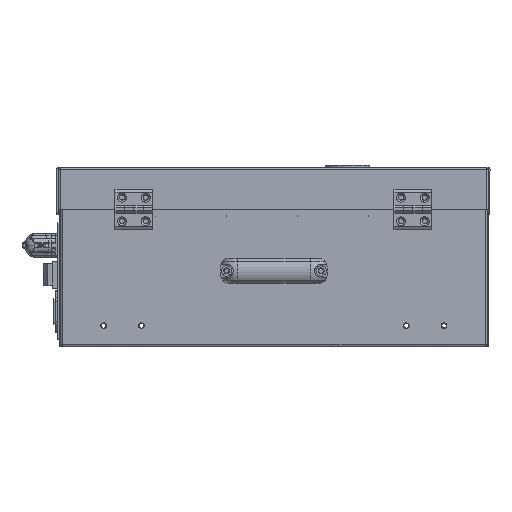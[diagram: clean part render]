
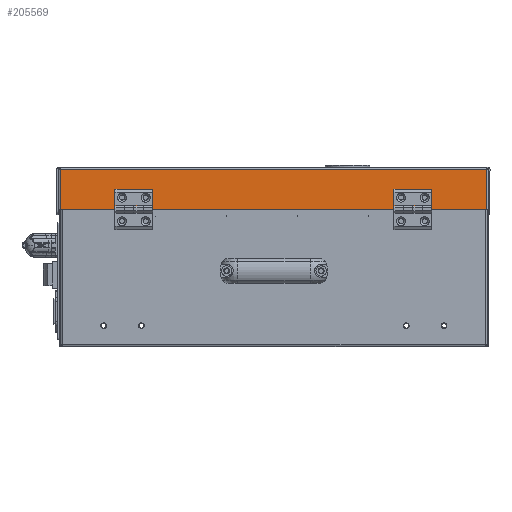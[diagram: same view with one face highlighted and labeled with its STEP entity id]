
A CAD part, front view. The second image highlights one B-rep face of the part: STEP entity #205569.
In plain terms, the highlighted planar face has unit normal (0, -1, 0) as drawn and (0, 1, 0) by its records, which use the part's own axes.
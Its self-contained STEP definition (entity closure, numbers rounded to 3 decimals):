
#1402 = FACE_BOUND ( 'NONE', #96316, .T. ) ;
#2380 = AXIS2_PLACEMENT_3D ( 'NONE', #160794, #110150, #207318 ) ;
#3241 = VERTEX_POINT ( 'NONE', #108169 ) ;
#3498 = CARTESIAN_POINT ( 'NONE',  ( 135., 85., 30.5 ) ) ;
#4326 = VERTEX_POINT ( 'NONE', #154454 ) ;
#11645 = DIRECTION ( 'NONE',  ( 0., 1., 0. ) ) ;
#12041 = ORIENTED_EDGE ( 'NONE', *, *, #181029, .F. ) ;
#13284 = DIRECTION ( 'NONE',  ( 0., 1., 0. ) ) ;
#14088 = FACE_BOUND ( 'NONE', #180103, .T. ) ;
#22217 = VERTEX_POINT ( 'NONE', #93759 ) ;
#26010 = DIRECTION ( 'NONE',  ( 0., 0., 1. ) ) ;
#28496 = DIRECTION ( 'NONE',  ( 0., 0., 1. ) ) ;
#29756 = DIRECTION ( 'NONE',  ( 0., 1., 0. ) ) ;
#30173 = AXIS2_PLACEMENT_3D ( 'NONE', #32202, #133297, #180763 ) ;
#32202 = CARTESIAN_POINT ( 'NONE',  ( 135., 85., 30.5 ) ) ;
#37663 = CIRCLE ( 'NONE', #118793, 2.65 ) ;
#44179 = AXIS2_PLACEMENT_3D ( 'NONE', #208347, #169663, #26010 ) ;
#47878 = VERTEX_POINT ( 'NONE', #159566 ) ;
#49643 = EDGE_CURVE ( 'NONE', #47878, #104927, #67621, .T. ) ;
#51980 = DIRECTION ( 'NONE',  ( 0., 0., 1. ) ) ;
#52454 = DIRECTION ( 'NONE',  ( 0., 0., 1. ) ) ;
#52818 = ORIENTED_EDGE ( 'NONE', *, *, #122464, .F. ) ;
#55891 = ORIENTED_EDGE ( 'NONE', *, *, #207957, .F. ) ;
#63579 = ORIENTED_EDGE ( 'NONE', *, *, #145010, .F. ) ;
#64511 = VERTEX_POINT ( 'NONE', #75135 ) ;
#65324 = VERTEX_POINT ( 'NONE', #157490 ) ;
#67621 = LINE ( 'NONE', #84510, #86638 ) ;
#69652 = DIRECTION ( 'NONE',  ( 0., 0., -1. ) ) ;
#70183 = DIRECTION ( 'NONE',  ( 0., 1., 0. ) ) ;
#71654 = CARTESIAN_POINT ( 'NONE',  ( 160., 85., 33.15 ) ) ;
#72544 = VERTEX_POINT ( 'NONE', #144346 ) ;
#72786 = CARTESIAN_POINT ( 'NONE',  ( -225.4, 85., 0. ) ) ;
#75135 = CARTESIAN_POINT ( 'NONE',  ( 135., 85., 33.15 ) ) ;
#76999 = EDGE_CURVE ( 'NONE', #199002, #131894, #37663, .T. ) ;
#77012 = EDGE_LOOP ( 'NONE', ( #63579, #201036 ) ) ;
#78750 = CARTESIAN_POINT ( 'NONE',  ( -135., 85., 30.5 ) ) ;
#80590 = FACE_BOUND ( 'NONE', #172758, .T. ) ;
#82117 = ORIENTED_EDGE ( 'NONE', *, *, #49643, .T. ) ;
#84204 = CARTESIAN_POINT ( 'NONE',  ( 160., 85., 30.5 ) ) ;
#84510 = CARTESIAN_POINT ( 'NONE',  ( 0., 85., 0.5 ) ) ;
#86638 = VECTOR ( 'NONE', #178513, 1000. ) ;
#87879 = VECTOR ( 'NONE', #69652, 1000. ) ;
#90627 = EDGE_LOOP ( 'NONE', ( #52818, #82117, #160406, #191460 ) ) ;
#93759 = CARTESIAN_POINT ( 'NONE',  ( -135., 85., 33.15 ) ) ;
#94292 = PLANE ( 'NONE',  #2380 ) ;
#94860 = VECTOR ( 'NONE', #204849, 1000. ) ;
#95820 = CARTESIAN_POINT ( 'NONE',  ( -160., 85., 33.15 ) ) ;
#96316 = EDGE_LOOP ( 'NONE', ( #184895, #55891 ) ) ;
#101508 = CIRCLE ( 'NONE', #44179, 2.65 ) ;
#101984 = CARTESIAN_POINT ( 'NONE',  ( 135., 85., 27.85 ) ) ;
#104927 = VERTEX_POINT ( 'NONE', #163479 ) ;
#105628 = CARTESIAN_POINT ( 'NONE',  ( -160., 85., 30.5 ) ) ;
#108169 = CARTESIAN_POINT ( 'NONE',  ( -160., 85., 27.85 ) ) ;
#108299 = DIRECTION ( 'NONE',  ( 0., 0., 1. ) ) ;
#110150 = DIRECTION ( 'NONE',  ( 0., 1., 0. ) ) ;
#111082 = EDGE_CURVE ( 'NONE', #64511, #188500, #141035, .T. ) ;
#111239 = CIRCLE ( 'NONE', #161875, 2.65 ) ;
#114323 = FACE_BOUND ( 'NONE', #77012, .T. ) ;
#118274 = CIRCLE ( 'NONE', #168794, 2.65 ) ;
#118793 = AXIS2_PLACEMENT_3D ( 'NONE', #84204, #199244, #52454 ) ;
#119050 = ORIENTED_EDGE ( 'NONE', *, *, #76999, .F. ) ;
#120777 = VERTEX_POINT ( 'NONE', #95820 ) ;
#122464 = EDGE_CURVE ( 'NONE', #47878, #72544, #206387, .T. ) ;
#124153 = AXIS2_PLACEMENT_3D ( 'NONE', #3498, #132330, #51980 ) ;
#124578 = CIRCLE ( 'NONE', #30173, 2.65 ) ;
#126034 = CIRCLE ( 'NONE', #179931, 2.65 ) ;
#131894 = VERTEX_POINT ( 'NONE', #163929 ) ;
#131953 = ORIENTED_EDGE ( 'NONE', *, *, #171390, .F. ) ;
#132330 = DIRECTION ( 'NONE',  ( 0., 1., 0. ) ) ;
#133297 = DIRECTION ( 'NONE',  ( 0., 1., 0. ) ) ;
#134660 = CARTESIAN_POINT ( 'NONE',  ( -135., 85., 30.5 ) ) ;
#134860 = AXIS2_PLACEMENT_3D ( 'NONE', #78750, #13284, #108299 ) ;
#140460 = CARTESIAN_POINT ( 'NONE',  ( 225.4, 85., 43. ) ) ;
#140955 = DIRECTION ( 'NONE',  ( 0., 0., 1. ) ) ;
#141035 = CIRCLE ( 'NONE', #124153, 2.65 ) ;
#144346 = CARTESIAN_POINT ( 'NONE',  ( 225.4, 85., 43. ) ) ;
#145010 = EDGE_CURVE ( 'NONE', #22217, #4326, #111239, .T. ) ;
#147155 = EDGE_CURVE ( 'NONE', #65324, #104927, #167862, .T. ) ;
#154454 = CARTESIAN_POINT ( 'NONE',  ( -135., 85., 27.85 ) ) ;
#157490 = CARTESIAN_POINT ( 'NONE',  ( -225.4, 85., 43. ) ) ;
#159566 = CARTESIAN_POINT ( 'NONE',  ( 225.4, 85., 0.5 ) ) ;
#160406 = ORIENTED_EDGE ( 'NONE', *, *, #147155, .F. ) ;
#160794 = CARTESIAN_POINT ( 'NONE',  ( 0., 85., 0. ) ) ;
#161875 = AXIS2_PLACEMENT_3D ( 'NONE', #134660, #70183, #164212 ) ;
#163479 = CARTESIAN_POINT ( 'NONE',  ( -225.4, 85., 0.5 ) ) ;
#163929 = CARTESIAN_POINT ( 'NONE',  ( 160., 85., 27.85 ) ) ;
#164212 = DIRECTION ( 'NONE',  ( 0., 0., 1. ) ) ;
#167862 = LINE ( 'NONE', #72786, #87879 ) ;
#168794 = AXIS2_PLACEMENT_3D ( 'NONE', #174431, #29756, #175454 ) ;
#169663 = DIRECTION ( 'NONE',  ( 0., 1., 0. ) ) ;
#171390 = EDGE_CURVE ( 'NONE', #120777, #3241, #126034, .T. ) ;
#172758 = EDGE_LOOP ( 'NONE', ( #131953, #177507 ) ) ;
#174431 = CARTESIAN_POINT ( 'NONE',  ( -160., 85., 30.5 ) ) ;
#175454 = DIRECTION ( 'NONE',  ( 0., 0., 1. ) ) ;
#177507 = ORIENTED_EDGE ( 'NONE', *, *, #178562, .F. ) ;
#178513 = DIRECTION ( 'NONE',  ( -1., 0., 0. ) ) ;
#178562 = EDGE_CURVE ( 'NONE', #3241, #120777, #118274, .T. ) ;
#179820 = EDGE_CURVE ( 'NONE', #65324, #72544, #184070, .T. ) ;
#179931 = AXIS2_PLACEMENT_3D ( 'NONE', #105628, #11645, #28496 ) ;
#180103 = EDGE_LOOP ( 'NONE', ( #119050, #12041 ) ) ;
#180763 = DIRECTION ( 'NONE',  ( 0., 0., 1. ) ) ;
#181029 = EDGE_CURVE ( 'NONE', #131894, #199002, #101508, .T. ) ;
#182506 = VECTOR ( 'NONE', #140955, 1000. ) ;
#184070 = LINE ( 'NONE', #140460, #94860 ) ;
#184895 = ORIENTED_EDGE ( 'NONE', *, *, #111082, .F. ) ;
#188500 = VERTEX_POINT ( 'NONE', #101984 ) ;
#188767 = CIRCLE ( 'NONE', #134860, 2.65 ) ;
#191460 = ORIENTED_EDGE ( 'NONE', *, *, #179820, .T. ) ;
#193651 = CARTESIAN_POINT ( 'NONE',  ( 225.4, 85., 28.5 ) ) ;
#195612 = FACE_OUTER_BOUND ( 'NONE', #90627, .T. ) ;
#199002 = VERTEX_POINT ( 'NONE', #71654 ) ;
#199244 = DIRECTION ( 'NONE',  ( 0., 1., 0. ) ) ;
#201036 = ORIENTED_EDGE ( 'NONE', *, *, #208622, .F. ) ;
#204849 = DIRECTION ( 'NONE',  ( 1., 0., 0. ) ) ;
#205569 = ADVANCED_FACE ( 'NONE', ( #80590, #114323, #1402, #14088, #195612 ), #94292, .T. ) ;
#206387 = LINE ( 'NONE', #193651, #182506 ) ;
#207318 = DIRECTION ( 'NONE',  ( 0., 0., 1. ) ) ;
#207957 = EDGE_CURVE ( 'NONE', #188500, #64511, #124578, .T. ) ;
#208347 = CARTESIAN_POINT ( 'NONE',  ( 160., 85., 30.5 ) ) ;
#208622 = EDGE_CURVE ( 'NONE', #4326, #22217, #188767, .T. ) ;
